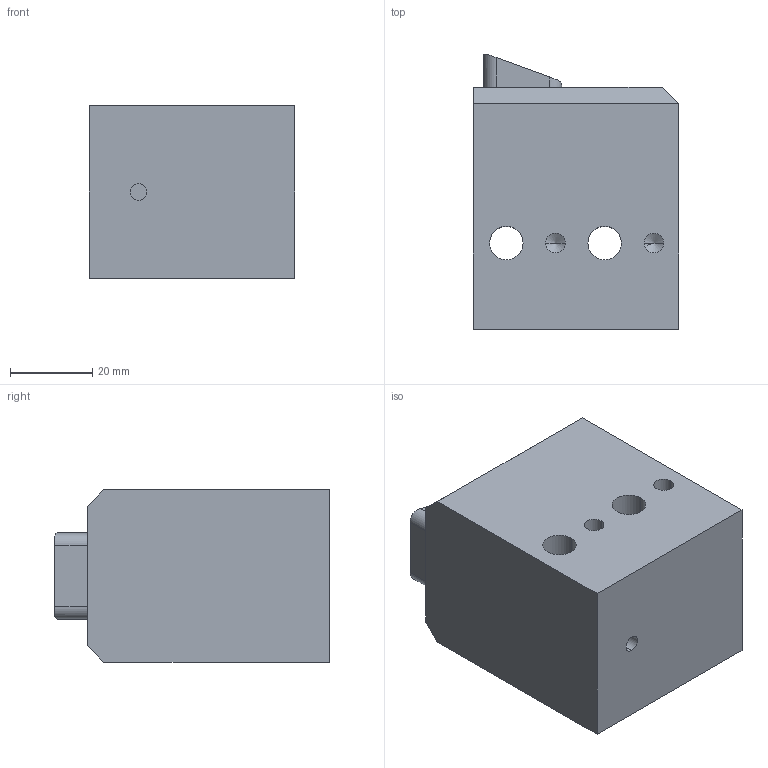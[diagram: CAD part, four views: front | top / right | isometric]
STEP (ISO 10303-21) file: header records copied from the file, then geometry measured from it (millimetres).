
FILE_DESCRIPTION (( 'STEP AP203' ), '1' );
FILE_NAME ('ASR.STEP', '2015-06-17T08:02:39', ( '' ), ( '' ), 'SwSTEP 2.0', 'SolidWorks 2015', '' );
FILE_SCHEMA (( 'CONFIG_CONTROL_DESIGN' ));
Length unit declared in the file: millimetre
Products named in the file (1): ASR
Bounding box: 50 x 67 x 42 mm (x, y, z)
Volume: 118669.8 mm3; surface area: 18271.4 mm2
Topology: 1 solids, 1 shells, 59 faces, 143 edges, 86 vertices
Faces by surface type: plane 24, cylinder 23, cone 8, torus 4
Entity records: 1756 total; most frequent: CARTESIAN_POINT 307, DIRECTION 297, ORIENTED_EDGE 270, EDGE_CURVE 135, AXIS2_PLACEMENT_3D 108, VERTEX_POINT 86, VECTOR 81, LINE 81
